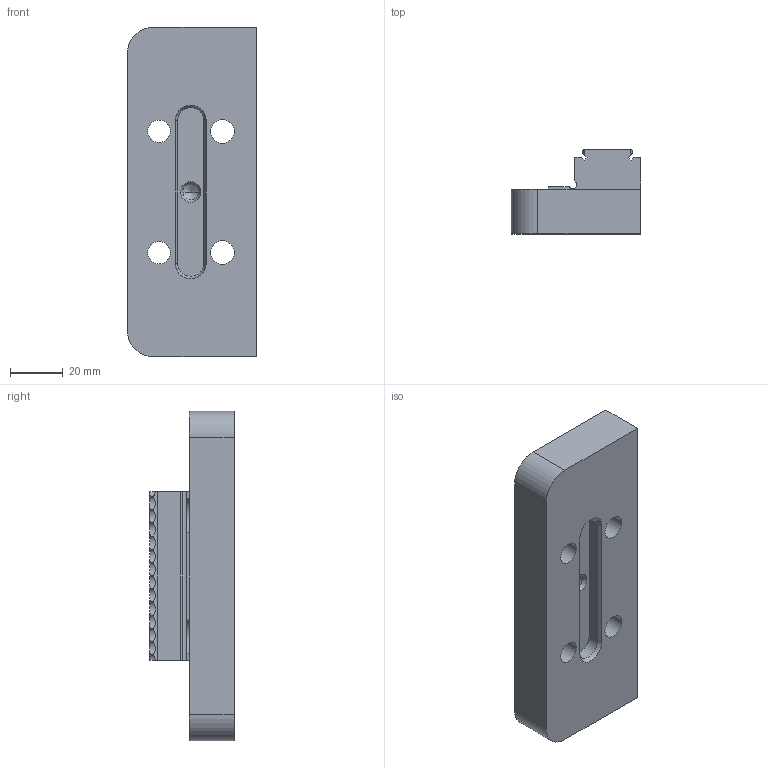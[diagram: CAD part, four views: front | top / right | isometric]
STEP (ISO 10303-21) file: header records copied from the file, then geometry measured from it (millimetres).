
FILE_DESCRIPTION((''),'2;1');
FILE_NAME('FG_VC_SCV_JAW64NP001','2026-03-06T09:26:06',('Admin'),(''),'CREO PARAMETRIC BY PTC INC, 2025010','CREO PARAMETRIC BY PTC INC, 2025010','');
FILE_SCHEMA(('CONFIG_CONTROL_DESIGN'));
Length unit declared in the file: millimetre
Products named in the file (1): FG_VC_SCV_JAW64NP001
Bounding box: 49 x 32 x 125 mm (x, y, z)
Volume: 112633 mm3; surface area: 25383 mm2
Topology: 1 solids, 3 shells, 162 faces, 455 edges, 297 vertices
Faces by surface type: plane 87, cylinder 59, cone 16
Entity records: 5334 total; most frequent: CARTESIAN_POINT 1189, ORIENTED_EDGE 890, DIRECTION 799, EDGE_CURVE 449, VERTEX_POINT 297, AXIS2_PLACEMENT_3D 271, VECTOR 257, LINE 257
